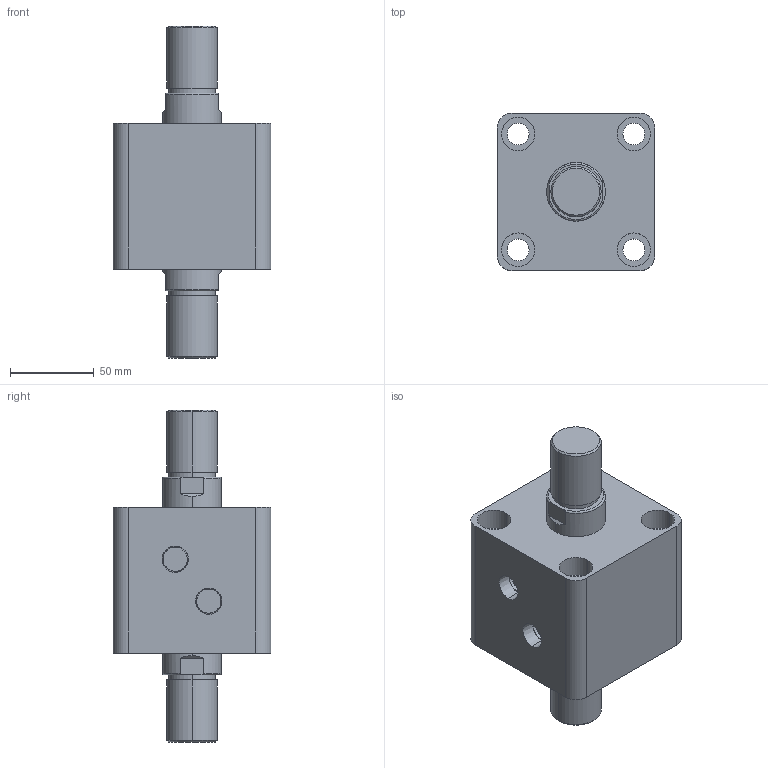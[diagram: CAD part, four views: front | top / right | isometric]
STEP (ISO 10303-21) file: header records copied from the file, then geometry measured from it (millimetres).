
FILE_DESCRIPTION (( 'STEP AP203' ), '1' );
FILE_NAME ('HTB-SW63-5W.STEP', '2019-10-07T09:29:43', ( '微软用户' ), ( '微软中国' ), 'SwSTEP 2.0', 'SolidWorks 2012', '' );
FILE_SCHEMA (( 'CONFIG_CONTROL_DESIGN' ));
Length unit declared in the file: millimetre
Products named in the file (3): HTB-SW63-5W; HTB-SW63-5W活塞杆; HTB-SW63-5掛极
Assembly tree (2 placements, depth 2):
  HTB-SW63-5W
    HTB-SW63-5掛极
    HTB-SW63-5W活塞杆
Bounding box: 94 x 94 x 198 mm (x, y, z)
Volume: 768208.1 mm3; surface area: 107785.5 mm2
Topology: 2 solids, 2 shells, 108 faces, 240 edges, 156 vertices
Faces by surface type: cylinder 52, plane 36, torus 12, cone 8
Entity records: 3465 total; most frequent: CARTESIAN_POINT 645, DIRECTION 586, ORIENTED_EDGE 480, AXIS2_PLACEMENT_3D 249, EDGE_CURVE 240, VERTEX_POINT 156, EDGE_LOOP 138, CIRCLE 136
